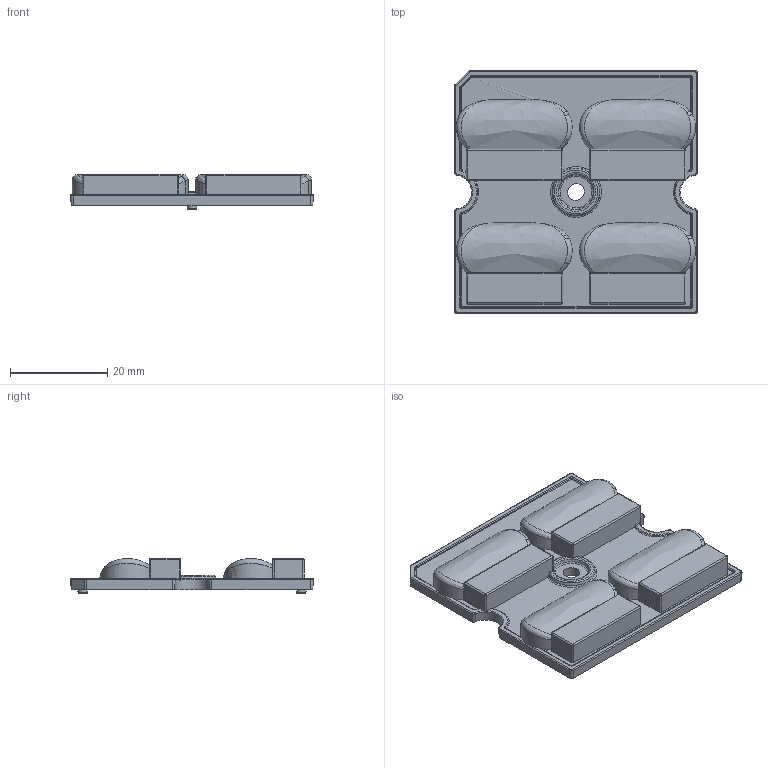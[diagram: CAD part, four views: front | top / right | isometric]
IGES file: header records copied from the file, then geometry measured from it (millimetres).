
Start section: C
Global section: file name: 023-W0G-02.igs; native system: By Siemens PLM Incorporated; preprocessor: XPlus GENERIC/IGES 23.0.61; author: Author; organization: Title; date: 20231114.172526; units: millimetre
Bounding box: 49.98 x 49.98 x 7.3 mm (x, y, z)
Volume: 9158.6 mm3; surface area: 7306.4 mm2
Topology: 1 solids, 1 shells, 491 faces, 1292 edges, 807 vertices
Faces by surface type: bspline 491
